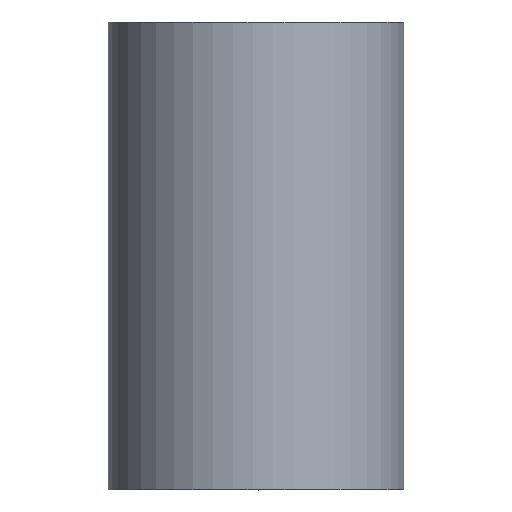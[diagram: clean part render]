
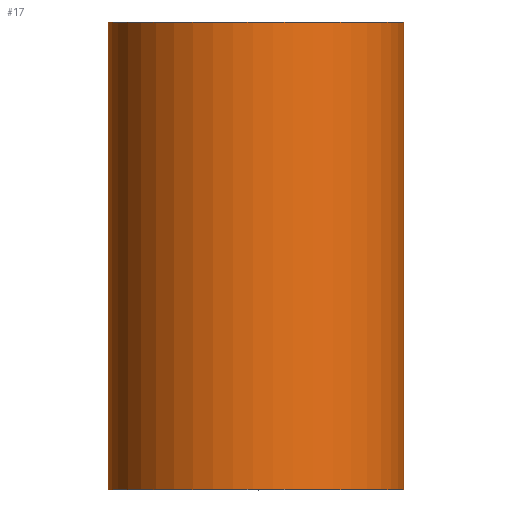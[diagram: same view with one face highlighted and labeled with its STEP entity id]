
A CAD part, top view. The second image highlights one B-rep face of the part: STEP entity #17.
In plain terms, the highlighted free-form (B-spline) face has degree [1, 2] with [2, 5] control points.
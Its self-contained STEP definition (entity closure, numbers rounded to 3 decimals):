
#17=ADVANCED_FACE('',(#23),#95,.T.);
#23=FACE_OUTER_BOUND('',#29,.T.);
#29=EDGE_LOOP('',(#37,#38,#39,#40));
#37=ORIENTED_EDGE('',*,*,#61,.F.);
#38=ORIENTED_EDGE('',*,*,#62,.T.);
#39=ORIENTED_EDGE('',*,*,#63,.T.);
#40=ORIENTED_EDGE('',*,*,#67,.F.);
#61=EDGE_CURVE('',#85,#89,#73,.T.);
#62=EDGE_CURVE('',#85,#86,#74,.T.);
#63=EDGE_CURVE('',#86,#90,#75,.T.);
#67=EDGE_CURVE('',#89,#90,#79,.T.);
#73=(
BOUNDED_CURVE()
B_SPLINE_CURVE(2,(#179,#180,#181,#182,#183),.UNSPECIFIED.,.F.,.F.)
B_SPLINE_CURVE_WITH_KNOTS((3,2,3),(0.,11.781,23.562),
 .UNSPECIFIED.)
CURVE()
GEOMETRIC_REPRESENTATION_ITEM()
RATIONAL_B_SPLINE_CURVE((1.,0.707,1.,0.707,1.))
REPRESENTATION_ITEM('')
);
#74=(
BOUNDED_CURVE()
B_SPLINE_CURVE(1,(#184,#185),.UNSPECIFIED.,.F.,.F.)
B_SPLINE_CURVE_WITH_KNOTS((2,2),(0.,23.7),.UNSPECIFIED.)
CURVE()
GEOMETRIC_REPRESENTATION_ITEM()
RATIONAL_B_SPLINE_CURVE((1.,1.))
REPRESENTATION_ITEM('')
);
#75=(
BOUNDED_CURVE()
B_SPLINE_CURVE(2,(#186,#187,#188,#189,#190),.UNSPECIFIED.,.F.,.F.)
B_SPLINE_CURVE_WITH_KNOTS((3,2,3),(0.,11.781,23.562),
 .UNSPECIFIED.)
CURVE()
GEOMETRIC_REPRESENTATION_ITEM()
RATIONAL_B_SPLINE_CURVE((1.,0.707,1.,0.707,1.))
REPRESENTATION_ITEM('')
);
#79=(
BOUNDED_CURVE()
B_SPLINE_CURVE(1,(#203,#204),.UNSPECIFIED.,.F.,.F.)
B_SPLINE_CURVE_WITH_KNOTS((2,2),(0.,23.7),.UNSPECIFIED.)
CURVE()
GEOMETRIC_REPRESENTATION_ITEM()
RATIONAL_B_SPLINE_CURVE((1.,1.))
REPRESENTATION_ITEM('')
);
#85=VERTEX_POINT('',#171);
#86=VERTEX_POINT('',#172);
#89=VERTEX_POINT('',#175);
#90=VERTEX_POINT('',#176);
#95=(
BOUNDED_SURFACE()
B_SPLINE_SURFACE(1,2,((#129,#130,#131,#132,#133),(#134,#135,#136,#137,#138)),
 .UNSPECIFIED.,.F.,.F.,.F.)
B_SPLINE_SURFACE_WITH_KNOTS((2,2),(3,2,3),(0.,23.7),(0.,11.781,
23.562),.UNSPECIFIED.)
GEOMETRIC_REPRESENTATION_ITEM()
RATIONAL_B_SPLINE_SURFACE(((1.,0.707,1.,0.707,1.),
(1.,0.707,1.,0.707,1.)))
REPRESENTATION_ITEM('')
SURFACE()
);
#129=CARTESIAN_POINT('',(160.105,107.139,406.609));
#130=CARTESIAN_POINT('',(160.105,107.139,414.109));
#131=CARTESIAN_POINT('',(152.605,107.139,414.109));
#132=CARTESIAN_POINT('',(145.105,107.139,414.109));
#133=CARTESIAN_POINT('',(145.105,107.139,406.609));
#134=CARTESIAN_POINT('',(160.105,130.839,406.609));
#135=CARTESIAN_POINT('',(160.105,130.839,414.109));
#136=CARTESIAN_POINT('',(152.605,130.839,414.109));
#137=CARTESIAN_POINT('',(145.105,130.839,414.109));
#138=CARTESIAN_POINT('',(145.105,130.839,406.609));
#171=CARTESIAN_POINT('',(160.105,107.139,406.609));
#172=CARTESIAN_POINT('',(160.105,130.839,406.609));
#175=CARTESIAN_POINT('',(145.105,107.139,406.609));
#176=CARTESIAN_POINT('',(145.105,130.839,406.609));
#179=CARTESIAN_POINT('',(160.105,107.139,406.609));
#180=CARTESIAN_POINT('',(160.105,107.139,414.109));
#181=CARTESIAN_POINT('',(152.605,107.139,414.109));
#182=CARTESIAN_POINT('',(145.105,107.139,414.109));
#183=CARTESIAN_POINT('',(145.105,107.139,406.609));
#184=CARTESIAN_POINT('',(160.105,107.139,406.609));
#185=CARTESIAN_POINT('',(160.105,130.839,406.609));
#186=CARTESIAN_POINT('',(160.105,130.839,406.609));
#187=CARTESIAN_POINT('',(160.105,130.839,414.109));
#188=CARTESIAN_POINT('',(152.605,130.839,414.109));
#189=CARTESIAN_POINT('',(145.105,130.839,414.109));
#190=CARTESIAN_POINT('',(145.105,130.839,406.609));
#203=CARTESIAN_POINT('',(145.105,107.139,406.609));
#204=CARTESIAN_POINT('',(145.105,130.839,406.609));
